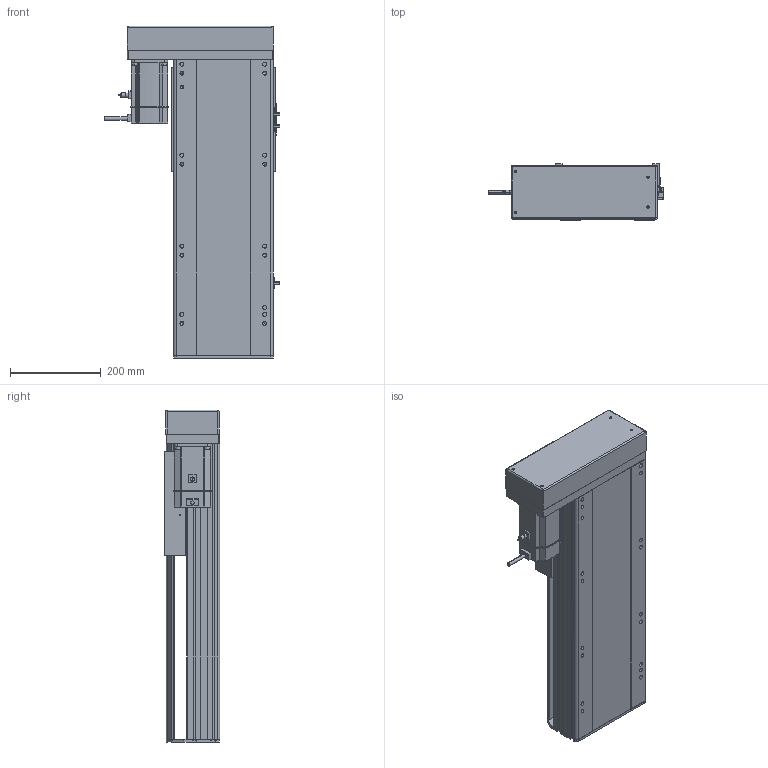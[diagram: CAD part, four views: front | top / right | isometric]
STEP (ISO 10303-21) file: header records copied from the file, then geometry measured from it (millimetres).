
FILE_DESCRIPTION (( 'STEP AP214' ), '1' );
FILE_NAME ('RTH22-XX-350-R-M75-C4.STEP', '2025-10-25T03:08:35', ( 'Microsoft' ), ( 'Microsoft' ), 'SwSTEP 2.0', 'SolidWorks 2018', '' );
FILE_SCHEMA (( 'AUTOMOTIVE_DESIGN' ));
Length unit declared in the file: millimetre
Products named in the file (10): N_RTH22-L-007奻裔^RTH22-XX-XX-R-M75-C4; N_RTH22-R-008-P75萇儂啣^RTH22-XX-XX-R-M75-C4; RTH22-XX-350-R-M75-C4; N_RTH22-L-011菁釱^RTH22-XX-XX-R-M75-C4; N_RTH22-GY-013外置感应片^RTH22-XX-XX-R-M75-C4; N_OMRON EE-SX672 传感器^RTH22-XX-XX-R-M75-C4; N_RTH22-L-018裔赽^RTH22-XX-XX-R-M75-C4; N_RTH22-L-004-SFS25賑釱^RTH22-XX-XX-R-M75-C4; N_RTH22-GY-001耜裔^RTH22-XX-XX-R-M75-C4; N_750W萇儂^RTH22-XX-XX-R-M75-C4
Assembly tree (11 placements, depth 2):
  RTH22-XX-350-R-M75-C4
    N_RTH22-L-011菁釱^RTH22-XX-XX-R-M75-C4
    N_RTH22-GY-001耜裔^RTH22-XX-XX-R-M75-C4
    N_750W萇儂^RTH22-XX-XX-R-M75-C4
    N_RTH22-R-008-P75萇儂啣^RTH22-XX-XX-R-M75-C4
    N_RTH22-L-007奻裔^RTH22-XX-XX-R-M75-C4
    N_OMRON EE-SX672 传感器^RTH22-XX-XX-R-M75-C4  x3
    N_RTH22-GY-013外置感应片^RTH22-XX-XX-R-M75-C4
    N_RTH22-L-004-SFS25賑釱^RTH22-XX-XX-R-M75-C4
    N_RTH22-L-018裔赽^RTH22-XX-XX-R-M75-C4
Bounding box: 384.7 x 122 x 729.7 mm (x, y, z)
Volume: 11333785.3 mm3; surface area: 1362821.3 mm2
Topology: 11 solids, 11 shells, 1538 faces, 4197 edges, 2713 vertices
Faces by surface type: plane 787, cylinder 426, bspline 279, cone 46
Entity records: 37993 total; most frequent: CARTESIAN_POINT 11758, ORIENTED_EDGE 5394, DIRECTION 5023, EDGE_CURVE 2697, VERTEX_POINT 1749, LINE 1699, VECTOR 1699, AXIS2_PLACEMENT_3D 1662
